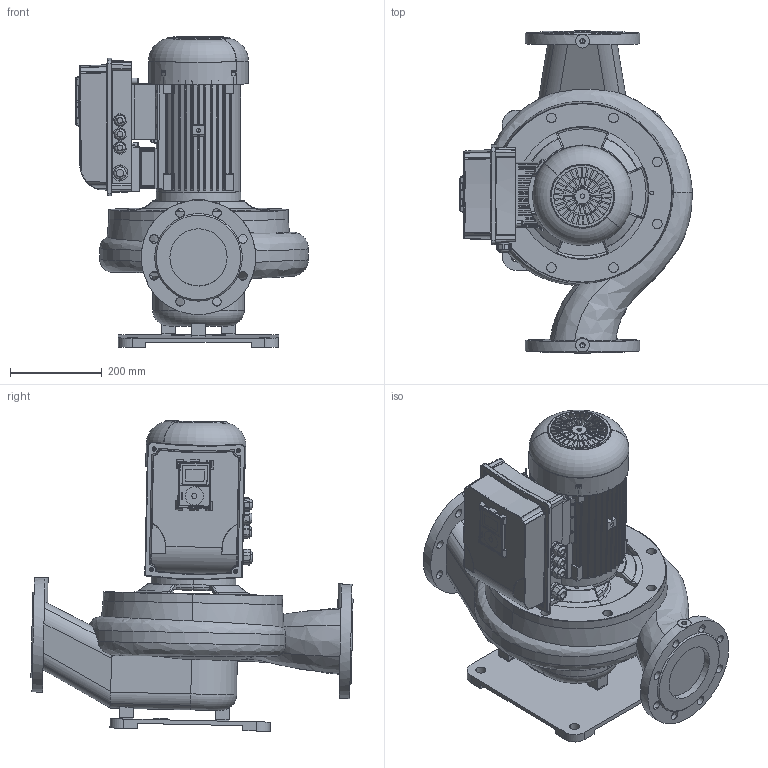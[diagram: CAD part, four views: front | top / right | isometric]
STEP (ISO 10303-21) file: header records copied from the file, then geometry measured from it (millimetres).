
FILE_DESCRIPTION(('STEP AP214'),'1');
FILE_NAME('export.stp','2018-06-01T12:42:35',(' '),(' '),'Spatial InterOp 3D',' ',' ');
FILE_SCHEMA(('AUTOMOTIVE_DESIGN { 1 0 10303 214 1 1 1 1 }'));
Length unit declared in the file: millimetre
Products named in the file (25): W_AL11294400_KPVS; V_TL110611291154; V_PPAL1129; V_JALKA30940; 440017; 440016; W_MKP112-2-F31_VS; 480018; 480017; 440018; 440021; Vacon_MS2; G43699; Vacon20CP_MS2; MS2_bottom_final; P101407; MS2_cover_final; Vacon_Display; CAD-3D-VACON-M100-Display.sldasm; Vacon_display_pla; Vacon_display_scr; DIN_966-M5x10; M20_tiivisteholkk; M25_tiivisteholkk; SOVITUSPALA
Assembly tree (29 placements, depth 6):
  W_AL11294400_KPVS
    V_TL110611291154
    V_PPAL1129
    V_JALKA30940
    W_MKP112-2-F31_VS
      440017
        440016
      480018
        480017
      440018
      440021
      Vacon_MS2
        G43699
        Vacon20CP_MS2
          MS2_bottom_final
          P101407
          MS2_cover_final
          Vacon_Display
            CAD-3D-VACON-M100-Display.sldasm
            Vacon_display_pla
            Vacon_display_scr
          DIN_966-M5x10  x4
          M20_tiivisteholkk  x3
          M25_tiivisteholkk
      SOVITUSPALA
Bounding box: 508.31 x 703.75 x 678.38 mm (x, y, z)
Volume: 31498409.5 mm3; surface area: 3255529 mm2
Topology: 22 solids, 1495 shells, 4398 faces, 15692 edges, 12814 vertices
Faces by surface type: bspline 1587, cylinder 1226, plane 1008, torus 285, cone 253, sphere 39
Entity records: 211276 total; most frequent: CARTESIAN_POINT 85141, ORIENTED_EDGE 22548, EDGE_CURVE 15096, DIRECTION 14756, VERTEX_POINT 12496, B_SPLINE_CURVE_WITH_KNOTS 7425, AXIS2_PLACEMENT_3D 5722, EDGE_LOOP 4698
